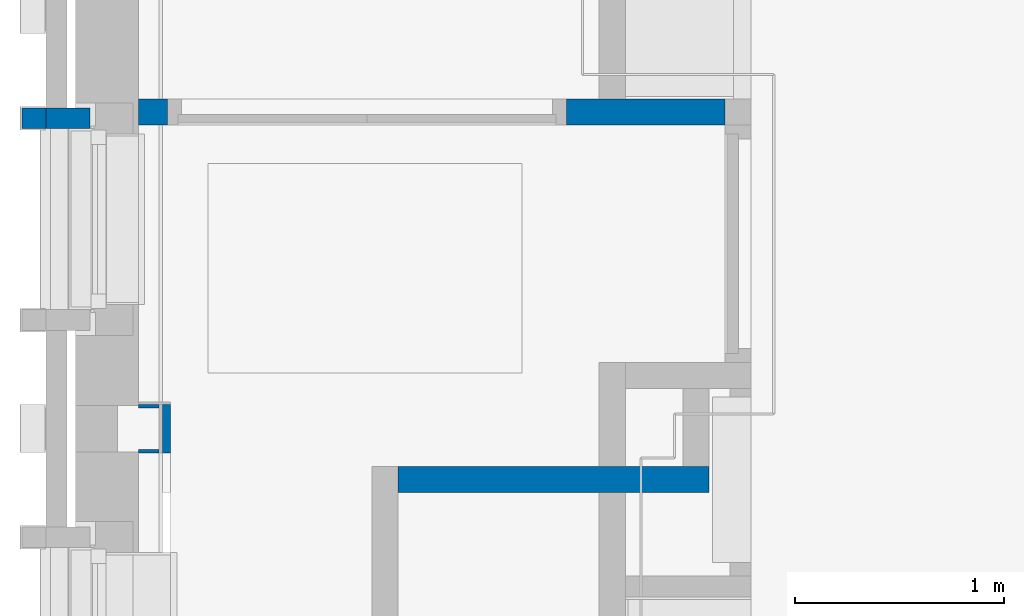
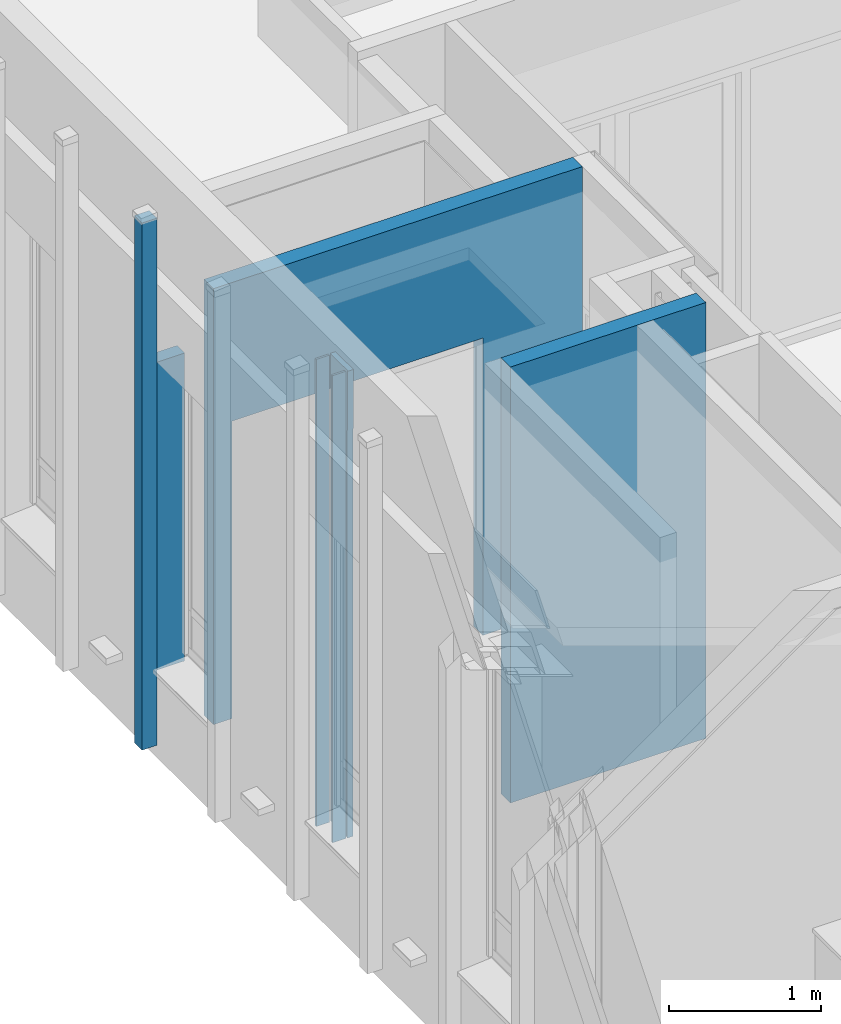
# One storey, part 49 of 118: 7 walls, 12 openings.
"""IFC2X3 building model written with IfcOpenShell, lengths in millimetres."""

from ifc_helpers import new_model, entity, si_unit, converted_unit, derived_unit, direction, frame, frame_2d, origin, place, context, subcontext, project, spatial, polyline, rectangle, extrude, clip, bounded_halfspace, faceted_brep, material, layer, layer_set, layer_usage, type_object, element, save


model = new_model("IFC2X3")

# Units and contexts
model_context = context("Model", 3, precision=0.01, world=origin(), true_north=direction((6.123031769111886e-17, 1.0)))
plan_context = context("Plan", 3, precision=0.01, world=origin(), true_north=direction((6.123031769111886e-17, 1.0)))
body_context = subcontext(model_context, "Body", "Model", "MODEL_VIEW")
ifc_project = project(units=[si_unit("LENGTHUNIT", "METRE", prefix="MILLI"), si_unit("AREAUNIT", "SQUARE_METRE"), si_unit("VOLUMEUNIT", "CUBIC_METRE"), converted_unit("PLANEANGLEUNIT", "DEGREE", entity("IfcRatioMeasure", 0.017453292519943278), si_unit("PLANEANGLEUNIT", "RADIAN"), dimensions=[0, 0, 0, 0, 0, 0, 0]), si_unit("MASSUNIT", "GRAM", prefix="KILO"), derived_unit("MASSDENSITYUNIT", [(si_unit("MASSUNIT", "GRAM", prefix="KILO"), 1), (si_unit("LENGTHUNIT", "METRE"), -3)]), derived_unit("IONCONCENTRATIONUNIT", [(si_unit("MASSUNIT", "GRAM", prefix="KILO"), 1), (si_unit("LENGTHUNIT", "METRE"), -3)]), derived_unit("MOMENTOFINERTIAUNIT", [(si_unit("LENGTHUNIT", "METRE"), 4)]), si_unit("TIMEUNIT", "SECOND"), si_unit("FREQUENCYUNIT", "HERTZ"), si_unit("THERMODYNAMICTEMPERATUREUNIT", "DEGREE_CELSIUS"), derived_unit("THERMALTRANSMITTANCEUNIT", [(si_unit("MASSUNIT", "GRAM", prefix="KILO"), 1), (si_unit("THERMODYNAMICTEMPERATUREUNIT", "KELVIN"), -1), (si_unit("TIMEUNIT", "SECOND"), -3)]), derived_unit("THERMALCONDUCTANCEUNIT", [(si_unit("MASSUNIT", "GRAM", prefix="KILO"), 1), (si_unit("THERMODYNAMICTEMPERATUREUNIT", "KELVIN"), -1), (si_unit("TIMEUNIT", "SECOND"), -3), (si_unit("LENGTHUNIT", "METRE"), 1)]), derived_unit("VOLUMETRICFLOWRATEUNIT", [(si_unit("LENGTHUNIT", "METRE"), 3), (si_unit("TIMEUNIT", "SECOND"), -1)]), derived_unit("MASSFLOWRATEUNIT", [(si_unit("MASSUNIT", "GRAM", prefix="KILO"), 1), (si_unit("TIMEUNIT", "SECOND"), -1)]), derived_unit("ROTATIONALFREQUENCYUNIT", [(si_unit("TIMEUNIT", "SECOND"), -1)]), si_unit("ELECTRICCURRENTUNIT", "AMPERE"), si_unit("ELECTRICVOLTAGEUNIT", "VOLT"), si_unit("POWERUNIT", "WATT"), si_unit("FORCEUNIT", "NEWTON", prefix="KILO"), si_unit("ILLUMINANCEUNIT", "LUX"), si_unit("LUMINOUSFLUXUNIT", "LUMEN"), si_unit("LUMINOUSINTENSITYUNIT", "CANDELA"), derived_unit("USERDEFINED", [(si_unit("MASSUNIT", "GRAM", prefix="KILO"), -1), (si_unit("LENGTHUNIT", "METRE"), -2), (si_unit("TIMEUNIT", "SECOND"), 3), (si_unit("LUMINOUSFLUXUNIT", "LUMEN"), 1)]), derived_unit("USERDEFINED", [(si_unit("MASSUNIT", "GRAM", prefix="KILO"), 1), (si_unit("TIMEUNIT", "SECOND"), -3), (si_unit("LENGTHUNIT", "METRE"), 3), (si_unit("ELECTRICCURRENTUNIT", "AMPERE"), -2)]), derived_unit("SOUNDPOWERUNIT", [(si_unit("MASSUNIT", "GRAM", prefix="KILO"), 1), (si_unit("TIMEUNIT", "SECOND"), -3), (si_unit("LENGTHUNIT", "METRE"), 2)]), derived_unit("SOUNDPRESSUREUNIT", [(si_unit("MASSUNIT", "GRAM", prefix="KILO"), 1), (si_unit("LENGTHUNIT", "METRE"), -1), (si_unit("TIMEUNIT", "SECOND"), -2)]), derived_unit("LINEARVELOCITYUNIT", [(si_unit("LENGTHUNIT", "METRE"), 1), (si_unit("TIMEUNIT", "SECOND"), -1)]), si_unit("PRESSUREUNIT", "PASCAL"), derived_unit("USERDEFINED", [(si_unit("MASSUNIT", "GRAM", prefix="KILO"), 1), (si_unit("LENGTHUNIT", "METRE"), -2), (si_unit("TIMEUNIT", "SECOND"), -2)]), derived_unit("LINEARFORCEUNIT", [(si_unit("MASSUNIT", "GRAM", prefix="KILO"), 1), (si_unit("TIMEUNIT", "SECOND"), -2)]), derived_unit("PLANARFORCEUNIT", [(si_unit("MASSUNIT", "GRAM", prefix="KILO"), 1), (si_unit("LENGTHUNIT", "METRE"), -1), (si_unit("TIMEUNIT", "SECOND"), -2)]), derived_unit("SPECIFICHEATCAPACITYUNIT", [(si_unit("THERMODYNAMICTEMPERATUREUNIT", "KELVIN"), -1), (si_unit("LENGTHUNIT", "METRE"), 2), (si_unit("TIMEUNIT", "SECOND"), -2)]), derived_unit("HEATINGVALUEUNIT", [(si_unit("LENGTHUNIT", "METRE"), 2), (si_unit("TIMEUNIT", "SECOND"), -2)]), derived_unit("VAPORPERMEABILITYUNIT", [(si_unit("LENGTHUNIT", "METRE"), -1), (si_unit("TIMEUNIT", "SECOND"), 1)]), derived_unit("DYNAMICVISCOSITYUNIT", [(si_unit("MASSUNIT", "GRAM", prefix="KILO"), 1), (si_unit("TIMEUNIT", "SECOND"), -1), (si_unit("LENGTHUNIT", "METRE"), -1)]), derived_unit("THERMALEXPANSIONCOEFFICIENTUNIT", [(si_unit("THERMODYNAMICTEMPERATUREUNIT", "KELVIN"), -1)]), derived_unit("MODULUSOFELASTICITYUNIT", [(si_unit("MASSUNIT", "GRAM", prefix="KILO"), 1), (si_unit("LENGTHUNIT", "METRE"), -1), (si_unit("TIMEUNIT", "SECOND"), -2)]), derived_unit("ISOTHERMALMOISTURECAPACITYUNIT", [(si_unit("LENGTHUNIT", "METRE"), 3), (si_unit("MASSUNIT", "GRAM", prefix="KILO"), -1)]), derived_unit("MOISTUREDIFFUSIVITYUNIT", [(si_unit("TIMEUNIT", "SECOND"), -1), (si_unit("LENGTHUNIT", "METRE"), 2)])], contexts=[model_context, plan_context])

# Site, building, storey
site_placement = place(None, origin())
site = spatial("IfcSite", under=ifc_project, at=site_placement, Name="Locatie", CompositionType="ELEMENT")
building_placement = place(site_placement, origin())
building = spatial("IfcBuilding", under=site, at=building_placement, Name="Bouwwerk", CompositionType="ELEMENT")
storey_placement = place(building_placement, frame((0.0, 0.0, 7800.0)))
storey = spatial("IfcBuildingStorey", under=building, at=storey_placement, Name="02 tweede verdieping", CompositionType="ELEMENT", Elevation=7800.000000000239)

# Walls
ifc_material_1 = material(Name="g2_metselwerk_geel licht")
ifc_layer_1 = layer(ifc_material_1, 100.0)
ifc_layer_set_1 = layer_set([ifc_layer_1], Name="Basic Wall:21_WA_metselwerk_licht_100_gen_bdg")
ifc_layer_usage_1 = layer_usage(ifc_layer_set_1, "AXIS2", "NEGATIVE", 50.0)
wall_type_1 = type_object("IfcWallType", Name="Basic Wall:21_WA_metselwerk_licht_100_gen_bdg", PredefinedType="STANDARD", material=ifc_layer_set_1)
wall_1_placement = place(storey_placement, frame((9770.0, 24682.0, 603.0), z_axis=(0.0, 0.0, 1.0), x_axis=(-1.0, 0.0, 0.0)))
element("IfcWallStandardCase", 1, at=wall_1_placement, inside=storey, type_object=wall_type_1, material=ifc_layer_usage_1, Name="Basic Wall:21_WA_metselwerk_licht_100_gen_bdg", ObjectType="Basic Wall:21_WA_metselwerk_licht_100_gen_bdg", context=body_context, shape_type="SweptSolid", body=[
    extrude(rectangle(XDim=210.0000000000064, YDim=100.00000000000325, at=frame_2d((105.00000000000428, -4.654054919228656e-13), x_axis=(-1.0, 0.0))), origin(), (0.0, 0.0, 1.0), 2471.999999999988),
])
wall_2_placement = place(storey_placement, frame((9560.0, 24682.0, 0.0), z_axis=(0.0, 0.0, 1.0), x_axis=(-1.0, 0.0, 0.0)))
element("IfcWallStandardCase", 2, at=wall_2_placement, inside=storey, type_object=wall_type_1, material=ifc_layer_usage_1, Name="Basic Wall:21_WA_metselwerk_licht_100_gen_bdg", ObjectType="Basic Wall:21_WA_metselwerk_licht_100_gen_bdg", context=body_context, shape_type="SweptSolid", body=[
    extrude(rectangle(XDim=114.99999999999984, YDim=100.00000000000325, at=frame_2d((57.49999999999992, 1.2434497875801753e-12), x_axis=(-1.0, 0.0))), origin(), (0.0, 0.0, 1.0), 4232.000000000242),
])

# Wall, opening
ifc_material_2 = material(Name="f7_gipsvezel")
ifc_layer_2 = layer(ifc_material_2, 12.5)
ifc_material_3 = material(Name="f7_gips")
ifc_layer_3 = layer(ifc_material_3, 12.5)
ifc_material_4 = material(Name="n7_isolatie_glaswol")
ifc_layer_4 = layer(ifc_material_4, 75.0)
ifc_layer_5 = layer(ifc_material_3, 12.5)
ifc_layer_6 = layer(ifc_material_2, 12.5)
ifc_layer_set_2 = layer_set([ifc_layer_2, ifc_layer_3, ifc_layer_4, ifc_layer_5, ifc_layer_6], Name="Basic Wall: 25-75-25 _gen_bdg")
ifc_layer_usage_2 = layer_usage(ifc_layer_set_2, "AXIS2", "NEGATIVE", 62.50000000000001)
wall_type_2 = type_object("IfcWallType", Name="Basic Wall: 25-75-25 _gen_bdg", PredefinedType="STANDARD", material=ifc_layer_set_2)
wall_3_placement = place(storey_placement, frame((12800.0, 24712.499999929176, 0.0), z_axis=(0.0, 0.0, 1.0), x_axis=(-1.0, 0.0, 0.0)))
wall_3 = element("IfcWallStandardCase", 3, at=wall_3_placement, inside=storey, type_object=wall_type_2, material=ifc_layer_usage_2, Name="Basic Wall: 25-75-25 _gen_bdg", ObjectType="Basic Wall: 25-75-25 _gen_bdg", context=body_context, shape_type="SweptSolid", body=[
    extrude(rectangle(XDim=2800.0000001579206, YDim=124.99999999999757, at=frame_2d((1400.0000000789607, 1.0267342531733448e-12), x_axis=(1.0, 0.0))), origin(), (0.0, 0.0, 1.0), 3500.0000000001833),
])
opening_1_placement = place(wall_3_placement, frame((12800.0, 24712.499999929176, 0.0), z_axis=(0.0, 0.0, 1.0), x_axis=(-1.0, 0.0, 0.0)))
element("IfcOpeningElement", 4, at=opening_1_placement, cuts=wall_3, Name="Basic Wall: 25-75-25 _gen_bdg", ObjectType="Opening", context=body_context, shape_type="SweptSolid", body=[
    extrude(rectangle(XDim=2387.000000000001, YDim=1905.9999999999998, at=frame_2d((1.1368683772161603e-12, 0.0), x_axis=(1.0, 0.0))), frame((11091.806168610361, 26299.0, 1193.4999999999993), z_axis=(0.0, -1.0, 0.0), x_axis=(0.0, 0.0, 1.0)), (0.0, 0.0, 1.0), 3048.0),
])

# Wall
wall_4_placement = place(storey_placement, frame((11240.0, 22957.500000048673, 0.0)))
element("IfcWallStandardCase", 5, at=wall_4_placement, inside=storey, type_object=wall_type_2, material=ifc_layer_usage_2, Name="Basic Wall: 25-75-25 _gen_bdg", ObjectType="Basic Wall: 25-75-25 _gen_bdg", context=body_context, shape_type="SweptSolid", body=[
    extrude(rectangle(XDim=1485.0000001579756, YDim=124.99999999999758, at=frame_2d((742.5000000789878, -1.0302869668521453e-12), x_axis=(-1.0, 0.0))), origin(), (0.0, 0.0, 1.0), 3500.0000000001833),
])

# Wall, openings
ifc_layer_7 = layer(ifc_material_2, 12.5)
ifc_layer_8 = layer(ifc_material_3, 12.5)
ifc_material_5 = material(Name="ISR_Luchtspouw")
ifc_layer_9 = layer(ifc_material_5, 20.0)
ifc_layer_set_3 = layer_set([ifc_layer_7, ifc_layer_8, ifc_layer_9], Name="Basic Wall:22_WA_2xgips+rachels 25-20 _gen_bdg")
ifc_layer_usage_3 = layer_usage(ifc_layer_set_3, "AXIS2", "NEGATIVE", 22.50000000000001)
wall_type_3 = type_object("IfcWallType", Name="Basic Wall:22_WA_2xgips+rachels 25-20 _gen_bdg", PredefinedType="STANDARD", material=ifc_layer_set_3)
wall_5_placement = place(storey_placement, frame((10132.500000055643, 23315.0, 0.0), z_axis=(0.0, 0.0, 1.0), x_axis=(0.0, -1.0, 0.0)))
wall_5 = element("IfcWallStandardCase", 6, at=wall_5_placement, inside=storey, type_object=wall_type_3, material=ifc_layer_usage_3, Name="Basic Wall:22_WA_2xgips+rachels 25-20 _gen_bdg", ObjectType="Basic Wall:22_WA_2xgips+rachels 25-20 _gen_bdg", context=body_context, shape_type="Clipping", body=[
    clip(clip(clip(clip(extrude(rectangle(XDim=236.50000000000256, YDim=44.99999999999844, at=frame_2d((118.25000000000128, -6.590283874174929e-13), x_axis=(-1.0, 0.0))), origin(), (0.0, 0.0, 1.0), 3750.000000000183), bounded_halfspace(frame((231.0, 22.500000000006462, 3275.0), z_axis=(-1.0, 0.0, 0.0), x_axis=(0.0, -1.0, 0.0)), True, frame((231.0, 22.500000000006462, 3275.0), z_axis=(-1.0, 0.0, 0.0), x_axis=(0.0, -1.0, 0.0)), polyline([(0.0, 0.0), (0.0, -3275.0), (45.0, -3275.0), (45.0, 0.0), (0.0, 0.0)]))), bounded_halfspace(frame((231.0, -22.5000000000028, 3275.0), z_axis=(0.0, 0.0, 1.0), x_axis=(0.0, -1.0, 0.0)), True, frame((231.0, -22.5000000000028, 3275.0), z_axis=(0.0, 0.0, 1.0), x_axis=(0.0, -1.0, 0.0)), polyline([(0.0, 0.0), (0.0, 5.499999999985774), (-45.0, 5.500000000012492), (-45.0, 0.0), (0.0, 0.0)]))), bounded_halfspace(frame((230.0, -17.50000005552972, 0.0), z_axis=(0.0, 1.0, 0.0), x_axis=(-1.0, 0.0, 0.0)), True, frame((230.0, -17.50000005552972, 0.0), z_axis=(0.0, 1.0, 0.0), x_axis=(-1.0, 0.0, 0.0)), polyline([(0.0, 0.0), (230.0, 0.0), (230.0, 3750.0), (0.0, 3750.0), (0.0, 0.0)]))), bounded_halfspace(frame((230.0, -17.50000005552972, 3750.0), z_axis=(1.0, 0.0, 0.0), x_axis=(0.0, 1.0, 0.0)), True, frame((230.0, -17.50000005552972, 3750.0), z_axis=(1.0, 0.0, 0.0), x_axis=(0.0, 1.0, 0.0)), polyline([(0.0, 0.0), (-4.999999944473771, 0.0), (-4.999999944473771, -3750.0), (0.0, -3750.0), (0.0, 0.0)]))),
])
opening_2_placement = place(wall_5_placement, frame((11671.0, -572.5000000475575, 603.0)))
element("IfcOpeningElement", 7, at=opening_2_placement, cuts=wall_5, Name="Basic Wall:22_WA_2xgips+rachels 25-20 _gen_bdg", ObjectType="Opening", context=body_context, shape_type="Brep", body=[
    faceted_brep([(-1088.0, 100.0, 2472.0), (-1009.0, 100.0, 2472.0), (-1009.0, 100.0, 42.0), (-103.0, 100.0, 42.0), (-103.0, 100.0, 2472.0), (-24.0, 100.0, 2472.0), (-24.0, 100.0, 0.0), (-1088.0, 100.0, 0.0), (-24.0, 0.0, 2472.0), (-1088.0, 0.0, 2472.0), (-1088.0, 0.0, 0.0), (-24.0, 0.0, 0.0), (0.0, 415.0, 2594.0), (0.0, 415.0, 11.0), (-1112.0, 415.0, 11.0), (-1112.0, 415.0, 2594.0), (-148.0, 415.0, 2443.0), (-964.0, 415.0, 2443.0), (-964.0, 415.0, 87.0), (-148.0, 415.0, 87.0), (0.0, 140.0, 2594.0), (-1112.0, 140.0, 2594.0), (-1112.0, 140.0, 11.0), (0.0, 140.0, 11.0), (-103.0, 140.0, 42.0), (-1009.0, 140.0, 42.0), (-1009.0, 140.0, 2508.0), (-103.0, 140.0, 2508.0), (-1009.0, 100.0, 2508.0), (-103.0, 100.0, 2508.0), (-148.0, 615.0, 2443.0), (-148.0, 615.0, 87.0), (-964.0, 615.0, 87.0), (-964.0, 615.0, 2443.0)], [[[0, 1, 2, 3, 4, 5, 6, 7]], [[8, 9, 10, 11]], [[5, 8, 11, 6]], [[6, 11, 10, 7]], [[7, 10, 9, 0]], [[8, 5, 4, 1, 0, 9]], [[12, 13, 14, 15], [16, 17, 18, 19]], [[20, 21, 22, 23], [24, 25, 26, 27]], [[12, 20, 23, 13]], [[13, 23, 22, 14]], [[14, 22, 21, 15]], [[15, 21, 20, 12]], [[28, 1, 4, 29]], [[24, 27, 29, 4, 3]], [[3, 2, 25, 24]], [[2, 1, 28, 26, 25]], [[29, 27, 26, 28]], [[30, 31, 32, 33]], [[30, 16, 19, 31]], [[31, 19, 18, 32]], [[32, 18, 17, 33]], [[33, 17, 16, 30]]]),
])
opening_3_placement = place(wall_5_placement, frame((9671.0, -572.5000000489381, 603.0)))
element("IfcOpeningElement", 8, at=opening_3_placement, cuts=wall_5, Name="Basic Wall:22_WA_2xgips+rachels 25-20 _gen_bdg", ObjectType="Opening", context=body_context, shape_type="Brep", body=[
    faceted_brep([(-1088.0, 100.0, 2472.0), (-1009.0, 100.0, 2472.0), (-1009.0, 100.0, 42.0), (-103.0, 100.0, 42.0), (-103.0, 100.0, 2472.0), (-24.0, 100.0, 2472.0), (-24.0, 100.0, 0.0), (-1088.0, 100.0, 0.0), (-24.0, 0.0, 2472.0), (-1088.0, 0.0, 2472.0), (-1088.0, 0.0, 0.0), (-24.0, 0.0, 0.0), (0.0, 415.0, 2594.0), (0.0, 415.0, 11.0), (-1112.0, 415.0, 11.0), (-1112.0, 415.0, 2594.0), (-148.0, 415.0, 2443.0), (-964.0, 415.0, 2443.0), (-964.0, 415.0, 87.0), (-148.0, 415.0, 87.0), (0.0, 140.0, 2594.0), (-1112.0, 140.0, 2594.0), (-1112.0, 140.0, 11.0), (0.0, 140.0, 11.0), (-103.0, 140.0, 42.0), (-1009.0, 140.0, 42.0), (-1009.0, 140.0, 2508.0), (-103.0, 140.0, 2508.0), (-1009.0, 100.0, 2508.0), (-103.0, 100.0, 2508.0), (-148.0, 615.0, 2443.0), (-148.0, 615.0, 87.0), (-964.0, 615.0, 87.0), (-964.0, 615.0, 2443.0)], [[[0, 1, 2, 3, 4, 5, 6, 7]], [[8, 9, 10, 11]], [[5, 8, 11, 6]], [[6, 11, 10, 7]], [[7, 10, 9, 0]], [[8, 5, 4, 1, 0, 9]], [[12, 13, 14, 15], [16, 17, 18, 19]], [[20, 21, 22, 23], [24, 25, 26, 27]], [[12, 20, 23, 13]], [[13, 23, 22, 14]], [[14, 22, 21, 15]], [[15, 21, 20, 12]], [[28, 1, 4, 29]], [[24, 27, 29, 4, 3]], [[3, 2, 25, 24]], [[2, 1, 28, 26, 25]], [[29, 27, 26, 28]], [[30, 31, 32, 33]], [[30, 16, 19, 31]], [[31, 19, 18, 32]], [[32, 18, 17, 33]], [[33, 17, 16, 30]]]),
])
opening_4_placement = place(wall_5_placement, frame((7671.0, -572.5000000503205, 603.0)))
element("IfcOpeningElement", 9, at=opening_4_placement, cuts=wall_5, Name="Basic Wall:22_WA_2xgips+rachels 25-20 _gen_bdg", ObjectType="Opening", context=body_context, shape_type="Brep", body=[
    faceted_brep([(-1088.0, 100.0, 2472.0), (-1009.0, 100.0, 2472.0), (-1009.0, 100.0, 42.0), (-103.0, 100.0, 42.0), (-103.0, 100.0, 2472.0), (-24.0, 100.0, 2472.0), (-24.0, 100.0, 0.0), (-1088.0, 100.0, 0.0), (-24.0, 0.0, 2472.0), (-1088.0, 0.0, 2472.0), (-1088.0, 0.0, 0.0), (-24.0, 0.0, 0.0), (0.0, 415.0, 2594.0), (0.0, 415.0, 11.0), (-1112.0, 415.0, 11.0), (-1112.0, 415.0, 2594.0), (-148.0, 415.0, 2443.0), (-964.0, 415.0, 2443.0), (-964.0, 415.0, 87.0), (-148.0, 415.0, 87.0), (0.0, 140.0, 2594.0), (-1112.0, 140.0, 2594.0), (-1112.0, 140.0, 11.0), (0.0, 140.0, 11.0), (-103.0, 140.0, 42.0), (-1009.0, 140.0, 42.0), (-1009.0, 140.0, 2508.0), (-103.0, 140.0, 2508.0), (-1009.0, 100.0, 2508.0), (-103.0, 100.0, 2508.0), (-148.0, 615.0, 2443.0), (-148.0, 615.0, 87.0), (-964.0, 615.0, 87.0), (-964.0, 615.0, 2443.0)], [[[0, 1, 2, 3, 4, 5, 6, 7]], [[8, 9, 10, 11]], [[5, 8, 11, 6]], [[6, 11, 10, 7]], [[7, 10, 9, 0]], [[8, 5, 4, 1, 0, 9]], [[12, 13, 14, 15], [16, 17, 18, 19]], [[20, 21, 22, 23], [24, 25, 26, 27]], [[12, 20, 23, 13]], [[13, 23, 22, 14]], [[14, 22, 21, 15]], [[15, 21, 20, 12]], [[28, 1, 4, 29]], [[24, 27, 29, 4, 3]], [[3, 2, 25, 24]], [[2, 1, 28, 26, 25]], [[29, 27, 26, 28]], [[30, 31, 32, 33]], [[30, 16, 19, 31]], [[31, 19, 18, 32]], [[32, 18, 17, 33]], [[33, 17, 16, 30]]]),
])
opening_5_placement = place(wall_5_placement, frame((5671.0, -572.5000000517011, 603.0)))
element("IfcOpeningElement", 10, at=opening_5_placement, cuts=wall_5, Name="Basic Wall:22_WA_2xgips+rachels 25-20 _gen_bdg", ObjectType="Opening", context=body_context, shape_type="Brep", body=[
    faceted_brep([(-1088.0, 100.0, 2472.0), (-1009.0, 100.0, 2472.0), (-1009.0, 100.0, 42.0), (-103.0, 100.0, 42.0), (-103.0, 100.0, 2472.0), (-24.0, 100.0, 2472.0), (-24.0, 100.0, 0.0), (-1088.0, 100.0, 0.0), (-24.0, 0.0, 2472.0), (-1088.0, 0.0, 2472.0), (-1088.0, 0.0, 0.0), (-24.0, 0.0, 0.0), (0.0, 415.0, 2594.0), (0.0, 415.0, 11.0), (-1112.0, 415.0, 11.0), (-1112.0, 415.0, 2594.0), (-148.0, 415.0, 2443.0), (-964.0, 415.0, 2443.0), (-964.0, 415.0, 87.0), (-148.0, 415.0, 87.0), (0.0, 140.0, 2594.0), (-1112.0, 140.0, 2594.0), (-1112.0, 140.0, 11.0), (0.0, 140.0, 11.0), (-103.0, 140.0, 42.0), (-1009.0, 140.0, 42.0), (-1009.0, 140.0, 2508.0), (-103.0, 140.0, 2508.0), (-1009.0, 100.0, 2508.0), (-103.0, 100.0, 2508.0), (-148.0, 615.0, 2443.0), (-148.0, 615.0, 87.0), (-964.0, 615.0, 87.0), (-964.0, 615.0, 2443.0)], [[[0, 1, 2, 3, 4, 5, 6, 7]], [[8, 9, 10, 11]], [[5, 8, 11, 6]], [[6, 11, 10, 7]], [[7, 10, 9, 0]], [[8, 5, 4, 1, 0, 9]], [[12, 13, 14, 15], [16, 17, 18, 19]], [[20, 21, 22, 23], [24, 25, 26, 27]], [[12, 20, 23, 13]], [[13, 23, 22, 14]], [[14, 22, 21, 15]], [[15, 21, 20, 12]], [[28, 1, 4, 29]], [[24, 27, 29, 4, 3]], [[3, 2, 25, 24]], [[2, 1, 28, 26, 25]], [[29, 27, 26, 28]], [[30, 31, 32, 33]], [[30, 16, 19, 31]], [[31, 19, 18, 32]], [[32, 18, 17, 33]], [[33, 17, 16, 30]]]),
])
opening_6_placement = place(wall_5_placement, frame((3671.0, -572.5000000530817, 603.0)))
element("IfcOpeningElement", 11, at=opening_6_placement, cuts=wall_5, Name="Basic Wall:22_WA_2xgips+rachels 25-20 _gen_bdg", ObjectType="Opening", context=body_context, shape_type="Brep", body=[
    faceted_brep([(-24.0, 100.0, 0.0), (-24.0, 0.0, 0.0), (-1088.0, 0.0, 0.0), (-1088.0, 100.0, 0.0), (0.0, 415.0, 11.0), (0.0, 140.0, 11.0), (-1112.0, 140.0, 11.0), (-1112.0, 415.0, 11.0), (-103.0, 100.0, 42.0), (-1009.0, 100.0, 42.0), (-1009.0, 140.0, 42.0), (-103.0, 140.0, 42.0), (-1088.0, 100.0, 2472.0), (-1009.0, 100.0, 2472.0), (-103.0, 100.0, 2472.0), (-24.0, 100.0, 2472.0), (-24.0, 0.0, 2472.0), (-1088.0, 0.0, 2472.0), (0.0, 415.0, 2594.0), (-1112.0, 415.0, 2594.0), (-148.0, 415.0, 2443.0), (-964.0, 415.0, 2443.0), (-964.0, 415.0, 87.0), (-148.0, 415.0, 87.0), (0.0, 140.0, 2594.0), (-1112.0, 140.0, 2594.0), (-1009.0, 140.0, 2508.0), (-103.0, 140.0, 2508.0), (-1009.0, 100.0, 2508.0), (-103.0, 100.0, 2508.0), (-148.0, 615.0, 2443.0), (-148.0, 615.0, 87.0), (-964.0, 615.0, 87.0), (-964.0, 615.0, 2443.0)], [[[0, 1, 2, 3]], [[4, 5, 6, 7]], [[8, 9, 10, 11]], [[12, 13, 9, 8, 14, 15, 0, 3]], [[16, 17, 2, 1]], [[15, 16, 1, 0]], [[3, 2, 17, 12]], [[16, 15, 14, 13, 12, 17]], [[18, 4, 7, 19], [20, 21, 22, 23]], [[24, 25, 6, 5], [11, 10, 26, 27]], [[18, 24, 5, 4]], [[7, 6, 25, 19]], [[19, 25, 24, 18]], [[28, 13, 14, 29]], [[11, 27, 29, 14, 8]], [[9, 13, 28, 26, 10]], [[29, 27, 26, 28]], [[30, 31, 32, 33]], [[30, 20, 23, 31]], [[31, 23, 22, 32]], [[32, 22, 21, 33]], [[33, 21, 20, 30]]]),
])
opening_7_placement = place(wall_5_placement, frame((1671.0, -572.5000000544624, 603.0)))
element("IfcOpeningElement", 12, at=opening_7_placement, cuts=wall_5, Name="Basic Wall:22_WA_2xgips+rachels 25-20 _gen_bdg", ObjectType="Opening", context=body_context, shape_type="Brep", body=[
    faceted_brep([(-24.0, 100.0, 0.0), (-24.0, 0.0, 0.0), (-1088.0, 0.0, 0.0), (-1088.0, 100.0, 0.0), (0.0, 415.0, 11.0), (0.0, 140.0, 11.0), (-1112.0, 140.0, 11.0), (-1112.0, 415.0, 11.0), (-103.0, 100.0, 42.0), (-1009.0, 100.0, 42.0), (-1009.0, 140.0, 42.0), (-103.0, 140.0, 42.0), (-1088.0, 100.0, 2472.0), (-1009.0, 100.0, 2472.0), (-103.0, 100.0, 2472.0), (-24.0, 100.0, 2472.0), (-24.0, 0.0, 2472.0), (-1088.0, 0.0, 2472.0), (0.0, 415.0, 2594.0), (-1112.0, 415.0, 2594.0), (-148.0, 415.0, 2443.0), (-964.0, 415.0, 2443.0), (-964.0, 415.0, 87.0), (-148.0, 415.0, 87.0), (0.0, 140.0, 2594.0), (-1112.0, 140.0, 2594.0), (-1009.0, 140.0, 2508.0), (-103.0, 140.0, 2508.0), (-1009.0, 100.0, 2508.0), (-103.0, 100.0, 2508.0), (-148.0, 615.0, 2443.0), (-148.0, 615.0, 87.0), (-964.0, 615.0, 87.0), (-964.0, 615.0, 2443.0)], [[[0, 1, 2, 3]], [[4, 5, 6, 7]], [[8, 9, 10, 11]], [[12, 13, 9, 8, 14, 15, 0, 3]], [[16, 17, 2, 1]], [[15, 16, 1, 0]], [[3, 2, 17, 12]], [[16, 15, 14, 13, 12, 17]], [[18, 4, 7, 19], [20, 21, 22, 23]], [[24, 25, 6, 5], [11, 10, 26, 27]], [[18, 24, 5, 4]], [[7, 6, 25, 19]], [[19, 25, 24, 18]], [[28, 13, 14, 29]], [[11, 27, 29, 14, 8]], [[9, 13, 28, 26, 10]], [[29, 27, 26, 28]], [[30, 31, 32, 33]], [[30, 20, 23, 31]], [[31, 23, 22, 32]], [[32, 22, 21, 33]], [[33, 21, 20, 30]]]),
])
opening_8_placement = place(wall_5_placement, frame((-329.0, -572.500000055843, 603.0)))
element("IfcOpeningElement", 13, at=opening_8_placement, cuts=wall_5, Name="Basic Wall:22_WA_2xgips+rachels 25-20 _gen_bdg", ObjectType="Opening", context=body_context, shape_type="Brep", body=[
    faceted_brep([(-1088.0, 100.0, 2472.0), (-1009.0, 100.0, 2472.0), (-1009.0, 100.0, 42.0), (-103.0, 100.0, 42.0), (-103.0, 100.0, 2472.0), (-24.0, 100.0, 2472.0), (-24.0, 100.0, 0.0), (-1088.0, 100.0, 0.0), (-24.0, 0.0, 2472.0), (-1088.0, 0.0, 2472.0), (-1088.0, 0.0, 0.0), (-24.0, 0.0, 0.0), (0.0, 415.0, 2594.0), (0.0, 415.0, 11.0), (-1112.0, 415.0, 11.0), (-1112.0, 415.0, 2594.0), (-148.0, 415.0, 2443.0), (-964.0, 415.0, 2443.0), (-964.0, 415.0, 87.0), (-148.0, 415.0, 87.0), (0.0, 140.0, 2594.0), (-1112.0, 140.0, 2594.0), (-1112.0, 140.0, 11.0), (0.0, 140.0, 11.0), (-103.0, 140.0, 42.0), (-1009.0, 140.0, 42.0), (-1009.0, 140.0, 2508.0), (-103.0, 140.0, 2508.0), (-1009.0, 100.0, 2508.0), (-103.0, 100.0, 2508.0), (-148.0, 615.0, 2443.0), (-148.0, 615.0, 87.0), (-964.0, 615.0, 87.0), (-964.0, 615.0, 2443.0)], [[[0, 1, 2, 3, 4, 5, 6, 7]], [[8, 9, 10, 11]], [[5, 8, 11, 6]], [[6, 11, 10, 7]], [[7, 10, 9, 0]], [[8, 5, 4, 1, 0, 9]], [[12, 13, 14, 15], [16, 17, 18, 19]], [[20, 21, 22, 23], [24, 25, 26, 27]], [[12, 20, 23, 13]], [[13, 23, 22, 14]], [[14, 22, 21, 15]], [[15, 21, 20, 12]], [[28, 1, 4, 29]], [[24, 27, 29, 4, 3]], [[3, 2, 25, 24]], [[2, 1, 28, 26, 25]], [[29, 27, 26, 28]], [[30, 31, 32, 33]], [[30, 16, 19, 31]], [[31, 19, 18, 32]], [[32, 18, 17, 33]], [[33, 17, 16, 30]]]),
])
opening_9_placement = place(wall_5_placement, frame((-2329.0, -572.5000000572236, 603.0)))
element("IfcOpeningElement", 14, at=opening_9_placement, cuts=wall_5, Name="Basic Wall:22_WA_2xgips+rachels 25-20 _gen_bdg", ObjectType="Opening", context=body_context, shape_type="Brep", body=[
    faceted_brep([(-1088.0, 100.0, 2472.0), (-1009.0, 100.0, 2472.0), (-1009.0, 100.0, 42.0), (-103.0, 100.0, 42.0), (-103.0, 100.0, 2472.0), (-24.0, 100.0, 2472.0), (-24.0, 100.0, 0.0), (-1088.0, 100.0, 0.0), (-24.0, 0.0, 2472.0), (-1088.0, 0.0, 2472.0), (-1088.0, 0.0, 0.0), (-24.0, 0.0, 0.0), (0.0, 415.0, 2594.0), (0.0, 415.0, 11.0), (-1112.0, 415.0, 11.0), (-1112.0, 415.0, 2594.0), (-148.0, 415.0, 2443.0), (-964.0, 415.0, 2443.0), (-964.0, 415.0, 87.0), (-148.0, 415.0, 87.0), (0.0, 140.0, 2594.0), (-1112.0, 140.0, 2594.0), (-1112.0, 140.0, 11.0), (0.0, 140.0, 11.0), (-103.0, 140.0, 42.0), (-1009.0, 140.0, 42.0), (-1009.0, 140.0, 2508.0), (-103.0, 140.0, 2508.0), (-1009.0, 100.0, 2508.0), (-103.0, 100.0, 2508.0), (-148.0, 615.0, 2443.0), (-148.0, 615.0, 87.0), (-964.0, 615.0, 87.0), (-964.0, 615.0, 2443.0)], [[[0, 1, 2, 3, 4, 5, 6, 7]], [[8, 9, 10, 11]], [[5, 8, 11, 6]], [[6, 11, 10, 7]], [[7, 10, 9, 0]], [[8, 5, 4, 1, 0, 9]], [[12, 13, 14, 15], [16, 17, 18, 19]], [[20, 21, 22, 23], [24, 25, 26, 27]], [[12, 20, 23, 13]], [[13, 23, 22, 14]], [[14, 22, 21, 15]], [[15, 21, 20, 12]], [[28, 1, 4, 29]], [[24, 27, 29, 4, 3]], [[3, 2, 25, 24]], [[2, 1, 28, 26, 25]], [[29, 27, 26, 28]], [[30, 31, 32, 33]], [[30, 16, 19, 31]], [[31, 19, 18, 32]], [[32, 18, 17, 33]], [[33, 17, 16, 30]]]),
])
opening_10_placement = place(wall_5_placement, frame((-4329.0, -572.5000000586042, 603.0)))
element("IfcOpeningElement", 15, at=opening_10_placement, cuts=wall_5, Name="Basic Wall:22_WA_2xgips+rachels 25-20 _gen_bdg", ObjectType="Opening", context=body_context, shape_type="Brep", body=[
    faceted_brep([(-1088.0, 100.0, 2472.0), (-1009.0, 100.0, 2472.0), (-1009.0, 100.0, 42.0), (-103.0, 100.0, 42.0), (-103.0, 100.0, 2472.0), (-24.0, 100.0, 2472.0), (-24.0, 100.0, 0.0), (-1088.0, 100.0, 0.0), (-24.0, 0.0, 2472.0), (-1088.0, 0.0, 2472.0), (-1088.0, 0.0, 0.0), (-24.0, 0.0, 0.0), (0.0, 415.0, 2594.0), (0.0, 415.0, 11.0), (-1112.0, 415.0, 11.0), (-1112.0, 415.0, 2594.0), (-148.0, 415.0, 2443.0), (-964.0, 415.0, 2443.0), (-964.0, 415.0, 87.0), (-148.0, 415.0, 87.0), (0.0, 140.0, 2594.0), (-1112.0, 140.0, 2594.0), (-1112.0, 140.0, 11.0), (0.0, 140.0, 11.0), (-103.0, 140.0, 42.0), (-1009.0, 140.0, 42.0), (-1009.0, 140.0, 2508.0), (-103.0, 140.0, 2508.0), (-1009.0, 100.0, 2508.0), (-103.0, 100.0, 2508.0), (-148.0, 615.0, 2443.0), (-148.0, 615.0, 87.0), (-964.0, 615.0, 87.0), (-964.0, 615.0, 2443.0)], [[[0, 1, 2, 3, 4, 5, 6, 7]], [[8, 9, 10, 11]], [[5, 8, 11, 6]], [[6, 11, 10, 7]], [[7, 10, 9, 0]], [[8, 5, 4, 1, 0, 9]], [[12, 13, 14, 15], [16, 17, 18, 19]], [[20, 21, 22, 23], [24, 25, 26, 27]], [[12, 20, 23, 13]], [[13, 23, 22, 14]], [[14, 22, 21, 15]], [[15, 21, 20, 12]], [[28, 1, 4, 29]], [[24, 27, 29, 4, 3]], [[3, 2, 25, 24]], [[2, 1, 28, 26, 25]], [[29, 27, 26, 28]], [[30, 31, 32, 33]], [[30, 16, 19, 31]], [[31, 19, 18, 32]], [[32, 18, 17, 33]], [[33, 17, 16, 30]]]),
])
opening_11_placement = place(wall_5_placement, frame((-6329.0, -572.5000000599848, 603.0)))
element("IfcOpeningElement", 16, at=opening_11_placement, cuts=wall_5, Name="Basic Wall:22_WA_2xgips+rachels 25-20 _gen_bdg", ObjectType="Opening", context=body_context, shape_type="Brep", body=[
    faceted_brep([(-1088.0, 100.0, 2472.0), (-1009.0, 100.0, 2472.0), (-1009.0, 100.0, 42.0), (-103.0, 100.0, 42.0), (-103.0, 100.0, 2472.0), (-24.0, 100.0, 2472.0), (-24.0, 100.0, 0.0), (-1088.0, 100.0, 0.0), (-24.0, 0.0, 2472.0), (-1088.0, 0.0, 2472.0), (-1088.0, 0.0, 0.0), (-24.0, 0.0, 0.0), (0.0, 415.0, 2594.0), (0.0, 415.0, 11.0), (-1112.0, 415.0, 11.0), (-1112.0, 415.0, 2594.0), (-148.0, 415.0, 2443.0), (-964.0, 415.0, 2443.0), (-964.0, 415.0, 87.0), (-148.0, 415.0, 87.0), (0.0, 140.0, 2594.0), (-1112.0, 140.0, 2594.0), (-1112.0, 140.0, 11.0), (0.0, 140.0, 11.0), (-103.0, 140.0, 42.0), (-1009.0, 140.0, 42.0), (-1009.0, 140.0, 2508.0), (-103.0, 140.0, 2508.0), (-1009.0, 100.0, 2508.0), (-103.0, 100.0, 2508.0), (-148.0, 615.0, 2443.0), (-148.0, 615.0, 87.0), (-964.0, 615.0, 87.0), (-964.0, 615.0, 2443.0)], [[[0, 1, 2, 3, 4, 5, 6, 7]], [[8, 9, 10, 11]], [[5, 8, 11, 6]], [[6, 11, 10, 7]], [[7, 10, 9, 0]], [[8, 5, 4, 1, 0, 9]], [[12, 13, 14, 15], [16, 17, 18, 19]], [[20, 21, 22, 23], [24, 25, 26, 27]], [[12, 20, 23, 13]], [[13, 23, 22, 14]], [[14, 22, 21, 15]], [[15, 21, 20, 12]], [[28, 1, 4, 29]], [[24, 27, 29, 4, 3]], [[3, 2, 25, 24]], [[2, 1, 28, 26, 25]], [[29, 27, 26, 28]], [[30, 31, 32, 33]], [[30, 16, 19, 31]], [[31, 19, 18, 32]], [[32, 18, 17, 33]], [[33, 17, 16, 30]]]),
])
opening_12_placement = place(wall_5_placement, frame((-8329.0, -572.5000000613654, 603.0)))
element("IfcOpeningElement", 17, at=opening_12_placement, cuts=wall_5, Name="Basic Wall:22_WA_2xgips+rachels 25-20 _gen_bdg", ObjectType="Opening", context=body_context, shape_type="Brep", body=[
    faceted_brep([(-1088.0, 100.0, 2472.0), (-1009.0, 100.0, 2472.0), (-1009.0, 100.0, 42.0), (-103.0, 100.0, 42.0), (-103.0, 100.0, 2472.0), (-24.0, 100.0, 2472.0), (-24.0, 100.0, 0.0), (-1088.0, 100.0, 0.0), (-24.0, 0.0, 2472.0), (-1088.0, 0.0, 2472.0), (-1088.0, 0.0, 0.0), (-24.0, 0.0, 0.0), (0.0, 415.0, 2594.0), (0.0, 415.0, 11.0), (-1112.0, 415.0, 11.0), (-1112.0, 415.0, 2594.0), (-148.0, 415.0, 2443.0), (-964.0, 415.0, 2443.0), (-964.0, 415.0, 87.0), (-148.0, 415.0, 87.0), (0.0, 140.0, 2594.0), (-1112.0, 140.0, 2594.0), (-1112.0, 140.0, 11.0), (0.0, 140.0, 11.0), (-103.0, 140.0, 42.0), (-1009.0, 140.0, 42.0), (-1009.0, 140.0, 2508.0), (-103.0, 140.0, 2508.0), (-1009.0, 100.0, 2508.0), (-103.0, 100.0, 2508.0), (-148.0, 615.0, 2443.0), (-148.0, 615.0, 87.0), (-964.0, 615.0, 87.0), (-964.0, 615.0, 2443.0)], [[[0, 1, 2, 3, 4, 5, 6, 7]], [[8, 9, 10, 11]], [[5, 8, 11, 6]], [[6, 11, 10, 7]], [[7, 10, 9, 0]], [[8, 5, 4, 1, 0, 9]], [[12, 13, 14, 15], [16, 17, 18, 19]], [[20, 21, 22, 23], [24, 25, 26, 27]], [[12, 20, 23, 13]], [[13, 23, 22, 14]], [[14, 22, 21, 15]], [[15, 21, 20, 12]], [[28, 1, 4, 29]], [[24, 27, 29, 4, 3]], [[3, 2, 25, 24]], [[2, 1, 28, 26, 25]], [[29, 27, 26, 28]], [[30, 31, 32, 33]], [[30, 16, 19, 31]], [[31, 19, 18, 32]], [[32, 18, 17, 33]], [[33, 17, 16, 30]]]),
])

# Walls
ifc_material_6 = material(Name="ISR_brandwerende beplating")
ifc_layer_10 = layer(ifc_material_6, 15.0)
ifc_layer_set_4 = layer_set([ifc_layer_10], Name="Basic Wall:NLRS_41_WA_brandwerende beplating 15_gen_ISR")
ifc_layer_usage_4 = layer_usage(ifc_layer_set_4, "AXIS2", "NEGATIVE", 7.5)
wall_type_4 = type_object("IfcWallType", Name="Basic Wall:NLRS_41_WA_brandwerende beplating 15_gen_ISR", PredefinedType="STANDARD", material=ifc_layer_set_4)
wall_6_placement = place(storey_placement, frame((10100.0, 23092.49999999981, 0.0), z_axis=(0.0, 0.0, 1.0), x_axis=(-1.0, 0.0, 0.0)))
element("IfcWallStandardCase", 18, at=wall_6_placement, inside=storey, type_object=wall_type_4, material=ifc_layer_usage_4, Name="Basic Wall:NLRS_41_WA_brandwerende beplating 15_gen_ISR", ObjectType="Basic Wall:NLRS_41_WA_brandwerende beplating 15_gen_ISR", context=body_context, shape_type="SweptSolid", body=[
    extrude(rectangle(XDim=100.00000000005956, YDim=14.99999999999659, at=frame_2d((50.00000000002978, -1.5631940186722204e-13), x_axis=(-1.0, 0.0))), origin(), (0.0, 0.0, 1.0), 3750.000000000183),
])
ifc_layer_usage_5 = layer_usage(ifc_layer_set_4, "AXIS2", "POSITIVE", -7.5)
wall_7_placement = place(storey_placement, frame((10100.0, 23307.499999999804, 0.0), z_axis=(0.0, 0.0, 1.0), x_axis=(-1.0, 0.0, 0.0)))
element("IfcWallStandardCase", 19, at=wall_7_placement, inside=storey, type_object=wall_type_4, material=ifc_layer_usage_5, Name="Basic Wall:NLRS_41_WA_brandwerende beplating 15_gen_ISR", ObjectType="Basic Wall:NLRS_41_WA_brandwerende beplating 15_gen_ISR", context=body_context, shape_type="SweptSolid", body=[
    extrude(rectangle(XDim=100.00000000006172, YDim=14.99999999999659, at=frame_2d((50.00000000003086, -1.5631940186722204e-13), x_axis=(-1.0, 0.0))), origin(), (0.0, 0.0, 1.0), 3750.000000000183),
])

save(model, "model.ifc")
